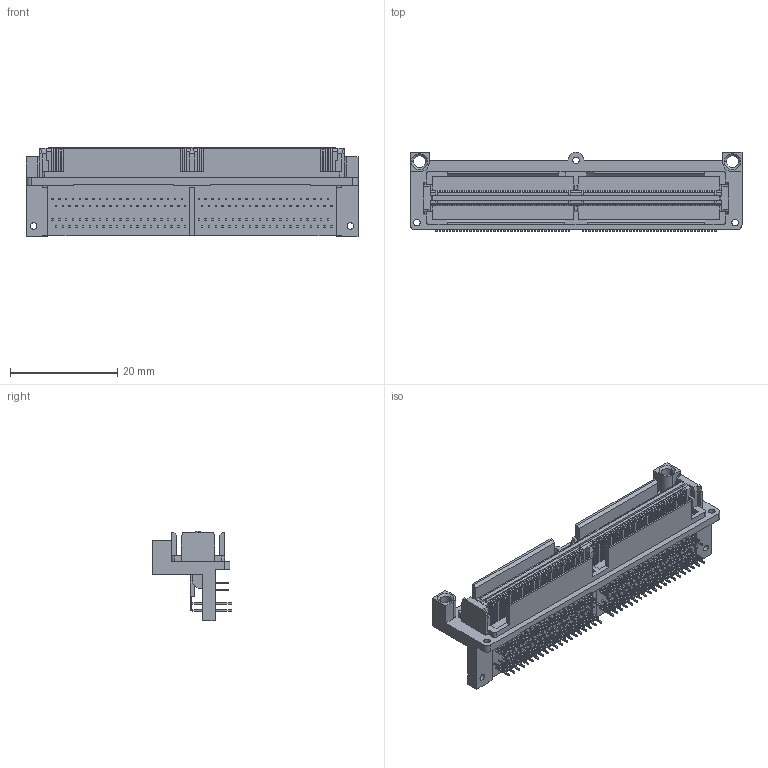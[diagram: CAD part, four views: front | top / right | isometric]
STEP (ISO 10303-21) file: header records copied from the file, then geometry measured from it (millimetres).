
FILE_DESCRIPTION (( 'STEP AP203' ), '1' );
FILE_NAME ('30046-160T-FC MINIDOCK RIGHT ANGLE PLUG STEP R2 ALL.STEP', '2024-04-04T08:42:44', ( '' ), ( '' ), 'SwSTEP 2.0', 'SolidWorks 2023', '' );
FILE_SCHEMA (( 'CONFIG_CONTROL_DESIGN' ));
Products named in the file (1): 30046-160T-FC MINIDOCK RIGHT ANGLE PLUG STEP R2 ALL
Bounding box: 62 x 14.86 x 16.8 mm (x, y, z)
Volume: 4042.1 mm3; surface area: 6708.3 mm2
Topology: 1 solids, 1 shells, 3243 faces, 9124 edges, 5964 vertices
Faces by surface type: plane 2894, cylinder 345, cone 4
Entity records: 103349 total; most frequent: CARTESIAN_POINT 18332, ORIENTED_EDGE 18248, DIRECTION 16626, EDGE_CURVE 9124, LINE 8110, VECTOR 8110, VERTEX_POINT 5964, AXIS2_PLACEMENT_3D 4258
